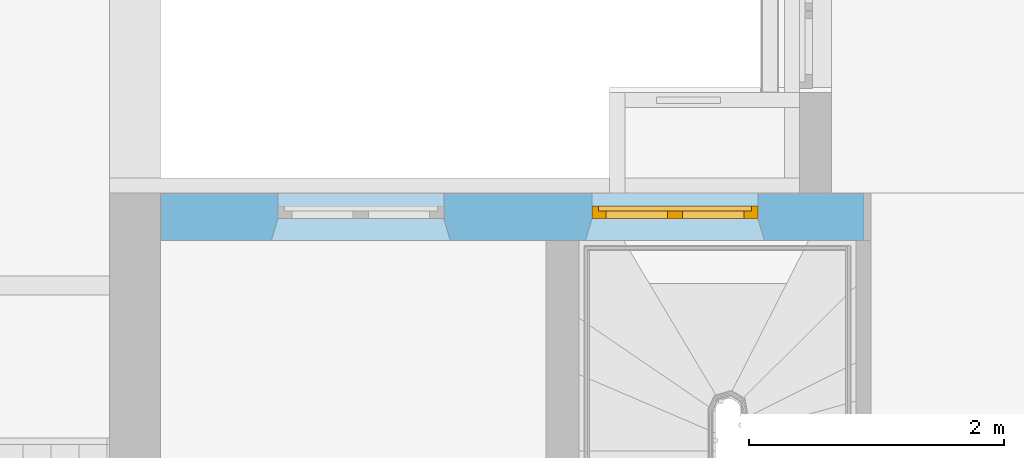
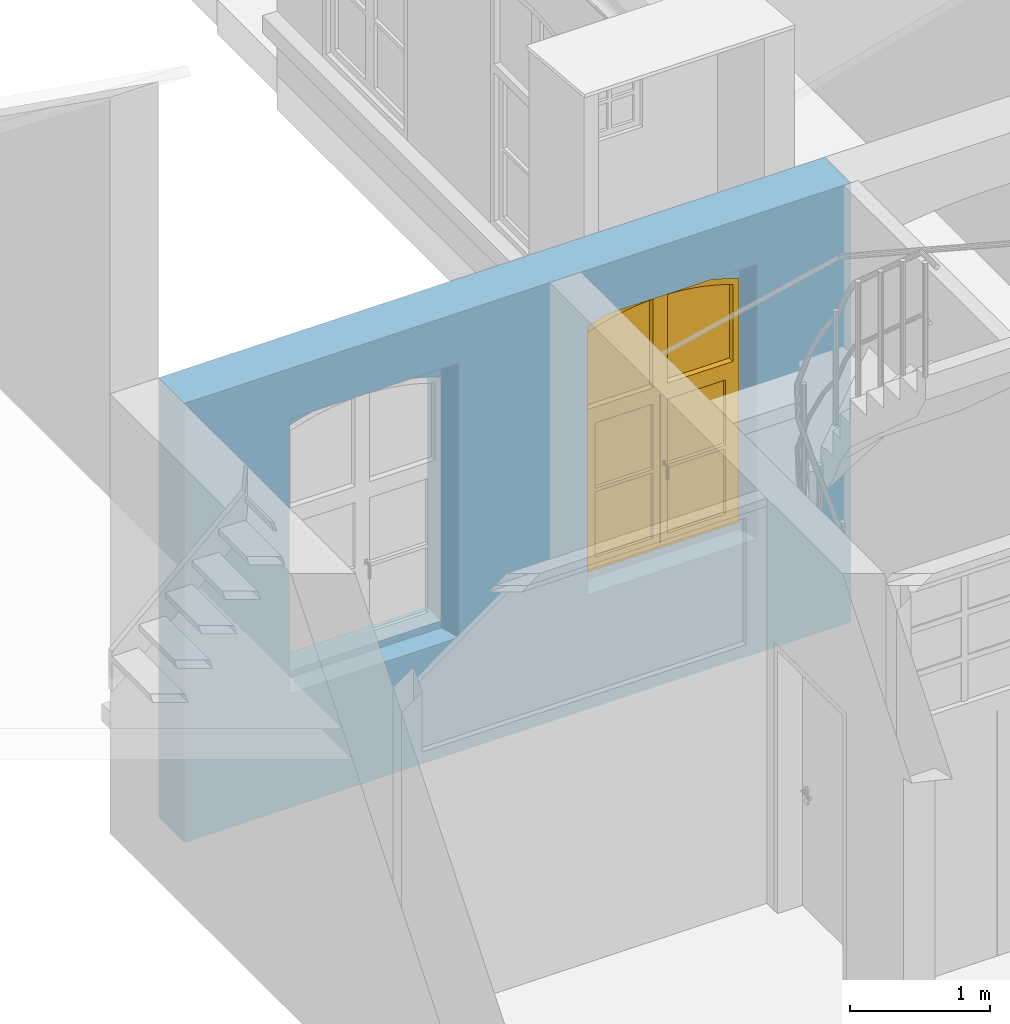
"""IFC4 building model written with IfcOpenShell, lengths in metres."""

from ifc_helpers import new_model, entity, si_unit, converted_unit, derived_unit, frame, frame_2d, origin, origin_with_axes, place, context, subcontext, project, spatial, polyline, rectangle, outline, extrude, closed_shell, open_shell, surface_model, source, transform, mapped, material, layer, layer_set, layer_usage, element, fill, save


model = new_model("IFC4")

# Units and contexts
model_context = context("Model", 3, precision=1e-05, world=origin())
body_context = subcontext(model_context, "Body", "Model", "MODEL_VIEW")
ifc_project = project(units=[si_unit("LENGTHUNIT", "METRE"), si_unit("AREAUNIT", "SQUARE_METRE"), si_unit("VOLUMEUNIT", "CUBIC_METRE"), si_unit("MASSUNIT", "GRAM", prefix="KILO"), converted_unit("PLANEANGLEUNIT", "DEGREE", entity("IfcPlaneAngleMeasure", 0.0174532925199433), si_unit("PLANEANGLEUNIT", "RADIAN"), dimensions=[0, 0, 0, 0, 0, 0, 0]), derived_unit("THERMALTRANSMITTANCEUNIT", [(si_unit("POWERUNIT", "WATT"), 1), (si_unit("THERMODYNAMICTEMPERATUREUNIT", "KELVIN"), -1), (si_unit("LENGTHUNIT", "METRE"), -2)]), derived_unit("VOLUMETRICFLOWRATEUNIT", [(si_unit("LENGTHUNIT", "METRE"), 3), (converted_unit("TIMEUNIT", "hour", entity("IfcTimeMeasure", 3600.0), si_unit("TIMEUNIT", "SECOND"), dimensions=[0, 0, 1, 0, 0, 0, 0]), -1), (si_unit("LENGTHUNIT", "METRE"), -1)])], contexts=[model_context])

# Building, storeys
building_placement = place(None, origin())
building = spatial("IfcBuilding", under=ifc_project, at=building_placement, Name="Bestandsgebäude A - Sporthalle / Wohnhaus (TB 100-499)   ANPASSEN !!!", CompositionType="ELEMENT")
storey_1_placement = place(building_placement, frame((0.0, 0.0, 3.87)))
storey_1 = spatial("IfcBuildingStorey", under=building, at=storey_1_placement, Name="Geb. A 1. Obergeschoss (TB 250-299)", CompositionType="ELEMENT", Elevation=3.87)
storey_2_placement = place(storey_1_placement, frame((0.0, 0.0, 3.87)))
storey_2 = spatial("IfcBuildingStorey", under=storey_1, at=storey_2_placement, Name="Architektur (TB 250-259)", CompositionType="PARTIAL")

# Wall, openings, window
ifc_material = material(Name="concrete")
ifc_layer = layer(ifc_material, 0.37)
ifc_layer_set = layer_set([ifc_layer])
ifc_layer_usage = layer_usage(ifc_layer_set, "AXIS2", "POSITIVE", 0.0)
wall_placement = place(storey_2_placement, frame((-2.99, 9.25, -4.27), z_axis=(0.0, 0.0, 1.0), x_axis=(-1.0, 0.0, 0.0)))
wall = element("IfcWall", 1, at=wall_placement, inside=storey_2, material=ifc_layer_usage, Name="reinforced - bearing", PredefinedType="USERDEFINED", context=body_context, shape_type="SweptSolid", body=[
    extrude(rectangle(XDim=5.51, YDim=0.37, at=frame_2d((2.755, 0.185), x_axis=(1.0, 0.0))), origin_with_axes(), (0.0, 0.0, 1.0), 3.84),
])
opening_1_placement = place(wall_placement, frame((0.82707106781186, 0.0, 1.06), z_axis=(0.0, 1.0, 0.0), x_axis=(0.0, 0.0, 1.0)))
opening_1 = element("IfcOpeningElement", 2, at=opening_1_placement, cuts=wall, Name="Window opening", PredefinedType="OPENING", context=body_context, shape_type="SweptSolid", body=[
    extrude(outline(polyline([(2.13, 1.3), (2.14531656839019, 1.25842115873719), (2.15961661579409, 1.21648184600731), (2.1728916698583, 1.17420690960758), (2.18513386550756, 1.1316213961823), (2.19633594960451, 1.08875053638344), (2.20649128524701, 1.04561972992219), (2.21559385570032, 1.00225453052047), (2.22363826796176, 0.958680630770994), (2.23061975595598, 0.914923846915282), (2.23653418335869, 0.871010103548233), (2.24137804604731, 0.8269654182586), (2.24514847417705, 0.782815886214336), (2.24784323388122, 0.738587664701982), (2.24946072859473, 0.694306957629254), (2.25, 0.65), (2.24946072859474, 0.605693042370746), (2.24784323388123, 0.561412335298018), (2.24514847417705, 0.517184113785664), (2.24137804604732, 0.473034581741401), (2.2365341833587, 0.428989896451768), (2.23061975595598, 0.385076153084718), (2.22363826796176, 0.341319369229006), (2.21559385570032, 0.297745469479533), (2.20649128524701, 0.254380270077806), (2.1963359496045, 0.211249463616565), (2.18513386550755, 0.168378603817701), (2.1728916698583, 0.125793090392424), (2.15961661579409, 0.0835181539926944), (2.14531656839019, 0.0415788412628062), (2.13, 0.0), (0.0, 0.0), (0.0, 1.3), (2.13, 1.3)])), origin_with_axes(), (0.0, 0.0, 1.0), 0.37),
])
opening_2_placement = place(wall_placement, frame((2.17814473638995, 0.37, 1.0), z_axis=(0.0, 0.0, 1.0), x_axis=(-1.0, 0.0, 0.0)))
element("IfcOpeningElement", 3, at=opening_2_placement, cuts=wall, Name="Wall Niche", ObjectType="Opening", context=body_context, shape_type="SweptSolid", body=[
    extrude(outline(polyline([(0.0, 0.0), (1.40142755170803, 0.0), (1.35107366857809, 0.17), (0.0510736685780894, 0.17), (0.0, 0.0)])), origin_with_axes(), (0.0, 0.0, 1.0), 2.4),
])
opening_3_placement = place(wall_placement, frame((4.64107366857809, 0.37, 1.0), z_axis=(0.0, 0.0, 1.0), x_axis=(-1.0, 0.0, 0.0)))
element("IfcOpeningElement", 4, at=opening_3_placement, cuts=wall, Name="Wall Niche", ObjectType="Opening", context=body_context, shape_type="SweptSolid", body=[
    extrude(outline(polyline([(0.0, 0.0), (1.40142755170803, 0.0), (1.35107366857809, 0.17), (0.0510736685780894, 0.17), (0.0, 0.0)])), origin_with_axes(), (0.0, 0.0, 1.0), 2.4),
])
opening_4_placement = place(wall_placement, frame((3.29, 0.0, 1.06), z_axis=(0.0, 1.0, 0.0), x_axis=(0.0, 0.0, 1.0)))
element("IfcOpeningElement", 5, at=opening_4_placement, cuts=wall, Name="Window opening", PredefinedType="OPENING", context=body_context, shape_type="SweptSolid", body=[
    extrude(outline(polyline([(2.13, 1.3), (2.14531656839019, 1.25842115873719), (2.15961661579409, 1.21648184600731), (2.1728916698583, 1.17420690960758), (2.18513386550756, 1.1316213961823), (2.1963359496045, 1.08875053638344), (2.20649128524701, 1.04561972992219), (2.21559385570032, 1.00225453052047), (2.22363826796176, 0.958680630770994), (2.23061975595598, 0.914923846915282), (2.23653418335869, 0.871010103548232), (2.24137804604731, 0.8269654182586), (2.24514847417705, 0.782815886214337), (2.24784323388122, 0.738587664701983), (2.24946072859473, 0.694306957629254), (2.25, 0.65), (2.24946072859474, 0.605693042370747), (2.24784323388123, 0.561412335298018), (2.24514847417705, 0.517184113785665), (2.24137804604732, 0.473034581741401), (2.2365341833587, 0.428989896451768), (2.23061975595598, 0.385076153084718), (2.22363826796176, 0.341319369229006), (2.21559385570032, 0.297745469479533), (2.20649128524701, 0.254380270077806), (2.1963359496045, 0.211249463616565), (2.18513386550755, 0.1683786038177), (2.1728916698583, 0.125793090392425), (2.15961661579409, 0.0835181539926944), (2.14531656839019, 0.0415788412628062), (2.13, 0.0), (0.0, 0.0), (0.0, 1.3), (2.13, 1.3)])), origin_with_axes(), (0.0, 0.0, 1.0), 0.37),
])
shared_shape = source(origin_with_axes(), body_context, "Body", "SurfaceModel", [
    surface_model("IfcShellBasedSurfaceModel", [(1.25842115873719, 0.0, 2.14531656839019), (1.3, 0.0, 2.13), (1.3, 0.0, 0.0), (0.0, 0.0, 0.0), (0.0, 0.0, 2.13), (0.0415788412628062, 0.0, 2.14531656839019), (0.0835181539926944, 0.0, 2.15961661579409), (0.125793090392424, 0.0, 2.1728916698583), (0.1683786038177, 0.0, 2.18513386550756), (0.211249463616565, 0.0, 2.1963359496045), (0.254380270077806, 0.0, 2.20649128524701), (0.297745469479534, 0.0, 2.21559385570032), (0.341319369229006, 0.0, 2.22363826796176), (0.385076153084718, 0.0, 2.23061975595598), (0.428989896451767, 0.0, 2.23653418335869), (0.473034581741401, 0.0, 2.24137804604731), (0.517184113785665, 0.0, 2.24514847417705), (0.561412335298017, 0.0, 2.24784323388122), (0.605693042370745, 0.0, 2.24946072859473), (0.65, 0.0, 2.25), (0.694306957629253, 0.0, 2.24946072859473), (0.738587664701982, 0.0, 2.24784323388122), (0.782815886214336, 0.0, 2.24514847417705), (0.8269654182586, 0.0, 2.24137804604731), (0.871010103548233, 0.0, 2.23653418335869), (0.914923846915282, 0.0, 2.23061975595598), (0.958680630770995, 0.0, 2.22363826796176), (1.00225453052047, 0.0, 2.21559385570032), (1.04561972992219, 0.0, 2.20649128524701), (1.08875053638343, 0.0, 2.1963359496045), (1.1316213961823, 0.0, 2.18513386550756), (1.17420690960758, 0.0, 2.1728916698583), (1.21648184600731, 0.0, 2.15961661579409), (1.25, 0.0, 2.0951341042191), (1.24170887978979, 0.0, 2.09818833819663), (1.20092156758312, 0.0, 2.1120955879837), (1.15980785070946, 0.0, 2.12500599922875), (1.118392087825, 0.0, 2.13691192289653), (1.07669881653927, 0.0, 2.14780630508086), (1.03475273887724, 0.0, 2.15768269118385), (0.992578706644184, 0.0, 2.16653522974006), (0.950201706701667, 0.0, 2.17435867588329), (0.907646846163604, 0.0, 2.18114839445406), (0.864939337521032, 0.0, 2.18690036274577), (0.82210448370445, 0.0, 2.19161117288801), (0.779167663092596, 0.0, 2.19527803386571), (0.736154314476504, 0.0, 2.19789877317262), (0.693089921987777, 0.0, 2.19947183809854), (0.65, 0.0, 2.19999629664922), (0.606910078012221, 0.0, 2.19947183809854), (0.563845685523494, 0.0, 2.19789877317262), (0.520832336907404, 0.0, 2.19527803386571), (0.477895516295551, 0.0, 2.19161117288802), (0.435060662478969, 0.0, 2.18690036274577), (0.392353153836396, 0.0, 2.18114839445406), (0.349798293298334, 0.0, 2.17435867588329), (0.307421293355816, 0.0, 2.16653522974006), (0.265247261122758, 0.0, 2.15768269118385), (0.223301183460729, 0.0, 2.14780630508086), (0.181607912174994, 0.0, 2.13691192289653), (0.140192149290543, 0.0, 2.12500599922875), (0.0990784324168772, 0.0, 2.1120955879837), (0.0582911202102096, 0.0, 2.09818833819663), (0.05, 0.0, 2.0951341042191), (0.05, 0.0, 0.05), (1.25, 0.0, 0.05), (1.3, 0.1, 2.13), (1.25842115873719, 0.1, 2.14531656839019), (1.21648184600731, 0.1, 2.15961661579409), (1.17420690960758, 0.1, 2.1728916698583), (1.1316213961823, 0.1, 2.18513386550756), (1.08875053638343, 0.1, 2.1963359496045), (1.04561972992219, 0.1, 2.20649128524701), (1.00225453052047, 0.1, 2.21559385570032), (0.958680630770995, 0.1, 2.22363826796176), (0.914923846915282, 0.1, 2.23061975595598), (0.871010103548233, 0.1, 2.23653418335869), (0.8269654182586, 0.1, 2.24137804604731), (0.782815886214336, 0.1, 2.24514847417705), (0.738587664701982, 0.1, 2.24784323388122), (0.694306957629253, 0.1, 2.24946072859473), (0.65, 0.1, 2.25), (0.605693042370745, 0.1, 2.24946072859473), (0.561412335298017, 0.1, 2.24784323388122), (0.517184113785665, 0.1, 2.24514847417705), (0.473034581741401, 0.1, 2.24137804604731), (0.428989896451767, 0.1, 2.23653418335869), (0.385076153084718, 0.1, 2.23061975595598), (0.341319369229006, 0.1, 2.22363826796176), (0.297745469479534, 0.1, 2.21559385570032), (0.254380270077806, 0.1, 2.20649128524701), (0.211249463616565, 0.1, 2.1963359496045), (0.1683786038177, 0.1, 2.18513386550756), (0.125793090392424, 0.1, 2.1728916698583), (0.0835181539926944, 0.1, 2.15961661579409), (0.0415788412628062, 0.1, 2.14531656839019), (0.0, 0.1, 2.13), (0.0, 0.1, 0.0), (1.3, 0.1, 0.0), (1.24170887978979, 0.1, 2.09818833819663), (1.25, 0.1, 2.0951341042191), (1.25, 0.1, 0.05), (0.05, 0.1, 0.05), (0.05, 0.1, 2.0951341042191), (0.0582911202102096, 0.1, 2.09818833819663), (0.0990784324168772, 0.1, 2.1120955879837), (0.140192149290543, 0.1, 2.12500599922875), (0.181607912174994, 0.1, 2.13691192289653), (0.223301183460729, 0.1, 2.14780630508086), (0.265247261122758, 0.1, 2.15768269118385), (0.307421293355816, 0.1, 2.16653522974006), (0.349798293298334, 0.1, 2.17435867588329), (0.392353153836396, 0.1, 2.18114839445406), (0.435060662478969, 0.1, 2.18690036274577), (0.477895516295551, 0.1, 2.19161117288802), (0.520832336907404, 0.1, 2.19527803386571), (0.563845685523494, 0.1, 2.19789877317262), (0.606910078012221, 0.1, 2.19947183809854), (0.65, 0.1, 2.19999629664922), (0.693089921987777, 0.1, 2.19947183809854), (0.736154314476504, 0.1, 2.19789877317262), (0.779167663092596, 0.1, 2.19527803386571), (0.82210448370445, 0.1, 2.19161117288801), (0.864939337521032, 0.1, 2.18690036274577), (0.907646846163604, 0.1, 2.18114839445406), (0.950201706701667, 0.1, 2.17435867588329), (0.992578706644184, 0.1, 2.16653522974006), (1.03475273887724, 0.1, 2.15768269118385), (1.07669881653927, 0.1, 2.14780630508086), (1.118392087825, 0.1, 2.13691192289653), (1.15980785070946, 0.1, 2.12500599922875), (1.20092156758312, 0.1, 2.1120955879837)], [closed_shell([[[0, 1, 2, 3, 4, 5, 6, 7, 8, 9, 10, 11, 12, 13, 14, 15, 16, 17, 18, 19, 20, 21, 22, 23, 24, 25, 26, 27, 28, 29, 30, 31, 32], [33, 34, 35, 36, 37, 38, 39, 40, 41, 42, 43, 44, 45, 46, 47, 48, 49, 50, 51, 52, 53, 54, 55, 56, 57, 58, 59, 60, 61, 62, 63, 64, 65]], [[66, 67, 68, 69, 70, 71, 72, 73, 74, 75, 76, 77, 78, 79, 80, 81, 82, 83, 84, 85, 86, 87, 88, 89, 90, 91, 92, 93, 94, 95, 96, 97, 98], [99, 100, 101, 102, 103, 104, 105, 106, 107, 108, 109, 110, 111, 112, 113, 114, 115, 116, 117, 118, 119, 120, 121, 122, 123, 124, 125, 126, 127, 128, 129, 130, 131]], [[1, 0, 67, 66]], [[2, 1, 66, 98]], [[3, 2, 98, 97]], [[4, 3, 97, 96]], [[5, 4, 96, 95]], [[6, 5, 95, 94]], [[7, 6, 94, 93]], [[8, 7, 93, 92]], [[9, 8, 92, 91]], [[10, 9, 91, 90]], [[11, 10, 90, 89]], [[12, 11, 89, 88]], [[13, 12, 88, 87]], [[14, 13, 87, 86]], [[15, 14, 86, 85]], [[16, 15, 85, 84]], [[17, 16, 84, 83]], [[18, 17, 83, 82]], [[19, 18, 82, 81]], [[20, 19, 81, 80]], [[21, 20, 80, 79]], [[22, 21, 79, 78]], [[23, 22, 78, 77]], [[24, 23, 77, 76]], [[25, 24, 76, 75]], [[26, 25, 75, 74]], [[27, 26, 74, 73]], [[28, 27, 73, 72]], [[29, 28, 72, 71]], [[30, 29, 71, 70]], [[31, 30, 70, 69]], [[32, 31, 69, 68]], [[0, 32, 68, 67]], [[33, 100, 99, 34]], [[65, 101, 100, 33]], [[64, 102, 101, 65]], [[63, 103, 102, 64]], [[62, 104, 103, 63]], [[61, 105, 104, 62]], [[60, 106, 105, 61]], [[59, 107, 106, 60]], [[58, 108, 107, 59]], [[57, 109, 108, 58]], [[56, 110, 109, 57]], [[55, 111, 110, 56]], [[54, 112, 111, 55]], [[53, 113, 112, 54]], [[52, 114, 113, 53]], [[51, 115, 114, 52]], [[50, 116, 115, 51]], [[49, 117, 116, 50]], [[48, 118, 117, 49]], [[47, 119, 118, 48]], [[46, 120, 119, 47]], [[45, 121, 120, 46]], [[44, 122, 121, 45]], [[43, 123, 122, 44]], [[42, 124, 123, 43]], [[41, 125, 124, 42]], [[40, 126, 125, 41]], [[39, 127, 126, 40]], [[38, 128, 127, 39]], [[37, 129, 128, 38]], [[36, 130, 129, 37]], [[35, 131, 130, 36]], [[34, 99, 131, 35]]], orient=[[False, False], [False, False], [False], [False], [False], [False], [False], [False], [False], [False], [False], [False], [False], [False], [False], [False], [False], [False], [False], [False], [False], [False], [False], [False], [False], [False], [False], [False], [False], [False], [False], [False], [False], [False], [False], [False], [False], [False], [False], [False], [False], [False], [False], [False], [False], [False], [False], [False], [False], [False], [False], [False], [False], [False], [False], [False], [False], [False], [False], [False], [False], [False], [False], [False], [False], [False], [False], [False]])]),
    surface_model("IfcShellBasedSurfaceModel", [(1.25, 0.0, 1.4226446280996), (1.25, 0.0, 1.3426446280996), (0.05, 0.0, 1.3426446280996), (0.05, 0.0, 1.4226446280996), (1.25, 0.1, 1.3426446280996), (1.25, 0.1, 1.4226446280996), (0.05, 0.1, 1.4226446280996), (0.05, 0.1, 1.3426446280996)], [closed_shell([[[0, 1, 2, 3]], [[4, 5, 6, 7]], [[1, 0, 5, 4]], [[2, 1, 4, 7]], [[3, 2, 7, 6]], [[0, 3, 6, 5]]], orient=[[False], [False], [False], [False], [False], [False]])]),
    surface_model("IfcShellBasedSurfaceModel", [(0.71, 0.0, 2.19885414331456), (0.71, 0.0, 1.4226446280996), (0.59, 0.0, 1.4226446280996), (0.59, 0.0, 2.19885414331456), (0.606910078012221, 0.0, 2.19947183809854), (0.65, 0.0, 2.19999629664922), (0.693089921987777, 0.0, 2.19947183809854), (0.71, 0.1, 1.4226446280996), (0.71, 0.1, 2.19885414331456), (0.693089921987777, 0.1, 2.19947183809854), (0.65, 0.1, 2.19999629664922), (0.606910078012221, 0.1, 2.19947183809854), (0.59, 0.1, 2.19885414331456), (0.59, 0.1, 1.4226446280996)], [closed_shell([[[0, 1, 2, 3, 4, 5, 6]], [[7, 8, 9, 10, 11, 12, 13]], [[1, 0, 8, 7]], [[2, 1, 7, 13]], [[3, 2, 13, 12]], [[4, 3, 12, 11]], [[5, 4, 11, 10]], [[6, 5, 10, 9]], [[0, 6, 9, 8]]], orient=[[False], [False], [False], [False], [False], [False], [False], [False], [False]])]),
    surface_model("IfcShellBasedSurfaceModel", [(0.6505, 0.0, 0.05), (0.6505, 0.0, 1.3426446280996), (1.25, 0.0, 1.3426446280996), (1.25, 0.0, 0.05), (0.7105, 0.0, 1.2826446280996), (0.7105, 0.0, 0.11), (1.19, 0.0, 0.11), (1.19, 0.0, 1.2826446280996), (0.6505, 0.06, 1.3426446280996), (0.6505, 0.06, 0.05), (1.25, 0.06, 0.05), (1.25, 0.06, 1.3426446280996), (0.7105, 0.06, 0.11), (0.7105, 0.06, 1.2826446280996), (1.19, 0.06, 1.2826446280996), (1.19, 0.06, 0.11)], [closed_shell([[[0, 1, 2, 3], [4, 5, 6, 7]], [[8, 9, 10, 11], [12, 13, 14, 15]], [[1, 0, 9, 8]], [[2, 1, 8, 11]], [[3, 2, 11, 10]], [[0, 3, 10, 9]], [[4, 13, 12, 5]], [[7, 14, 13, 4]], [[6, 15, 14, 7]], [[5, 12, 15, 6]]], orient=[[False, False], [False, False], [False], [False], [False], [False], [False], [False], [False], [False]])]),
    surface_model("IfcShellBasedSurfaceModel", [(0.693, 0.0, 0.755), (0.668, 0.0, 0.755), (0.668, 0.0, 0.715), (0.693, 0.0, 0.715), (0.693, -0.01, 0.715), (0.668, -0.01, 0.715), (0.668, -0.01, 0.755), (0.693, -0.01, 0.755)], [closed_shell([[[0, 1, 2, 3]], [[4, 5, 6, 7]], [[3, 4, 7, 0]], [[2, 5, 4, 3]], [[1, 6, 5, 2]], [[0, 7, 6, 1]]], orient=[[False], [False], [False], [False], [False], [False]])]),
    surface_model("IfcShellBasedSurfaceModel", [(0.6705, -0.01, 0.735), (0.671839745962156, -0.01, 0.73), (0.6755, -0.01, 0.726339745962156), (0.6805, -0.01, 0.725), (0.6855, -0.01, 0.726339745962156), (0.689160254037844, -0.01, 0.73), (0.6905, -0.01, 0.735), (0.689160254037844, -0.01, 0.74), (0.6855, -0.01, 0.743660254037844), (0.6805, -0.01, 0.745), (0.6755, -0.01, 0.743660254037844), (0.671839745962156, -0.01, 0.74), (0.671839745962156, -0.055, 0.74), (0.6705, -0.05, 0.735), (0.6755, -0.0586602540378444, 0.743660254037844), (0.6805, -0.06, 0.745), (0.6855, -0.0586602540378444, 0.743660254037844), (0.689160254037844, -0.055, 0.74), (0.6905, -0.05, 0.735), (0.689160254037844, -0.045, 0.73), (0.6855, -0.0413397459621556, 0.726339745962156), (0.6805, -0.04, 0.725), (0.6755, -0.0413397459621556, 0.726339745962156), (0.671839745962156, -0.045, 0.73), (0.6705, -0.05, 0.62), (0.671839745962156, -0.055, 0.62), (0.6755, -0.0586602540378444, 0.62), (0.6805, -0.06, 0.62), (0.6855, -0.0586602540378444, 0.62), (0.689160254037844, -0.055, 0.62), (0.6905, -0.05, 0.62), (0.689160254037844, -0.045, 0.62), (0.6855, -0.0413397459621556, 0.62), (0.6805, -0.04, 0.62), (0.6755, -0.0413397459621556, 0.62), (0.671839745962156, -0.045, 0.62)], [closed_shell([[[0, 1, 2, 3, 4, 5, 6, 7, 8, 9, 10, 11]], [[0, 11, 12, 13]], [[11, 10, 14, 12]], [[10, 9, 15, 14]], [[9, 8, 16, 15]], [[8, 7, 17, 16]], [[7, 6, 18, 17]], [[6, 5, 19, 18]], [[5, 4, 20, 19]], [[4, 3, 21, 20]], [[3, 2, 22, 21]], [[2, 1, 23, 22]], [[1, 0, 13, 23]], [[24, 25, 26, 27, 28, 29, 30, 31, 32, 33, 34, 35]], [[13, 12, 25, 24]], [[12, 14, 26, 25]], [[14, 15, 27, 26]], [[15, 16, 28, 27]], [[16, 17, 29, 28]], [[17, 18, 30, 29]], [[18, 19, 31, 30]], [[19, 20, 32, 31]], [[20, 21, 33, 32]], [[21, 22, 34, 33]], [[22, 23, 35, 34]], [[23, 13, 24, 35]]], orient=[[False], [False], [False], [False], [False], [False], [False], [False], [False], [False], [False], [False], [False], [False], [False], [False], [False], [False], [False], [False], [False], [False], [False], [False], [False], [False]])]),
    surface_model("IfcShellBasedSurfaceModel", [(0.6495, 0.0, 1.3426446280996), (0.6495, 0.0, 0.05), (0.05, 0.0, 0.05), (0.05, 0.0, 1.3426446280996), (0.5895, 0.0, 0.11), (0.5895, 0.0, 1.2826446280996), (0.11, 0.0, 1.2826446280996), (0.11, 0.0, 0.11), (0.6495, 0.06, 0.05), (0.6495, 0.06, 1.3426446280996), (0.05, 0.06, 1.3426446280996), (0.05, 0.06, 0.05), (0.5895, 0.06, 1.2826446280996), (0.5895, 0.06, 0.11), (0.11, 0.06, 0.11), (0.11, 0.06, 1.2826446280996)], [closed_shell([[[0, 1, 2, 3], [4, 5, 6, 7]], [[8, 9, 10, 11], [12, 13, 14, 15]], [[1, 0, 9, 8]], [[2, 1, 8, 11]], [[3, 2, 11, 10]], [[0, 3, 10, 9]], [[4, 13, 12, 5]], [[7, 14, 13, 4]], [[6, 15, 14, 7]], [[5, 12, 15, 6]]], orient=[[False, False], [False, False], [False], [False], [False], [False], [False], [False], [False], [False]])]),
    surface_model("IfcShellBasedSurfaceModel", [(0.5895, 0.0, 0.7113223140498), (0.5895, 0.0, 0.6813223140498), (0.11, 0.0, 0.6813223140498), (0.11, 0.0, 0.7113223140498), (0.5895, 0.06, 0.6813223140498), (0.5895, 0.06, 0.7113223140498), (0.11, 0.06, 0.7113223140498), (0.11, 0.06, 0.6813223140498)], [closed_shell([[[0, 1, 2, 3]], [[4, 5, 6, 7]], [[1, 0, 5, 4]], [[2, 1, 4, 7]], [[3, 2, 7, 6]], [[0, 3, 6, 5]]], orient=[[False], [False], [False], [False], [False], [False]])]),
    surface_model("IfcShellBasedSurfaceModel", [(1.19, 0.0, 0.7113223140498), (1.19, 0.0, 0.6813223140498), (0.7105, 0.0, 0.6813223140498), (0.7105, 0.0, 0.7113223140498), (1.19, 0.06, 0.6813223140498), (1.19, 0.06, 0.7113223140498), (0.7105, 0.06, 0.7113223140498), (0.7105, 0.06, 0.6813223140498)], [closed_shell([[[0, 1, 2, 3]], [[4, 5, 6, 7]], [[1, 0, 5, 4]], [[2, 1, 4, 7]], [[3, 2, 7, 6]], [[0, 3, 6, 5]]], orient=[[False], [False], [False], [False], [False], [False]])]),
    surface_model("IfcShellBasedSurfaceModel", [(1.24170887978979, 0.05, 2.09818833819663), (1.25, 0.05, 2.0951341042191), (1.25, 0.05, 1.4226446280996), (0.71, 0.05, 1.4226446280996), (0.71, 0.05, 2.19885414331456), (0.736154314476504, 0.05, 2.19789877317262), (0.779167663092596, 0.05, 2.19527803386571), (0.82210448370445, 0.05, 2.19161117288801), (0.864939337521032, 0.05, 2.18690036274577), (0.907646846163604, 0.05, 2.18114839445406), (0.950201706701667, 0.05, 2.17435867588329), (0.992578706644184, 0.05, 2.16653522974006), (1.03475273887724, 0.05, 2.15768269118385), (1.07669881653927, 0.05, 2.14780630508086), (1.118392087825, 0.05, 2.13691192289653), (1.15980785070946, 0.05, 2.12500599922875), (1.20092156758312, 0.05, 2.1120955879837)], [open_shell([[[0, 1, 2, 3, 4, 5, 6, 7, 8, 9, 10, 11, 12, 13, 14, 15, 16]]], orient=[[False]])]),
    surface_model("IfcShellBasedSurfaceModel", [(0.563845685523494, 0.05, 2.19789877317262), (0.59, 0.05, 2.19885414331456), (0.59, 0.05, 1.4226446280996), (0.05, 0.05, 1.4226446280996), (0.05, 0.05, 2.0951341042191), (0.0582911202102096, 0.05, 2.09818833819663), (0.0990784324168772, 0.05, 2.1120955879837), (0.140192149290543, 0.05, 2.12500599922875), (0.181607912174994, 0.05, 2.13691192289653), (0.223301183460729, 0.05, 2.14780630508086), (0.265247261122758, 0.05, 2.15768269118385), (0.307421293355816, 0.05, 2.16653522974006), (0.349798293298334, 0.05, 2.17435867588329), (0.392353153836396, 0.05, 2.18114839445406), (0.435060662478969, 0.05, 2.18690036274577), (0.477895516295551, 0.05, 2.19161117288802), (0.520832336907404, 0.05, 2.19527803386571)], [open_shell([[[0, 1, 2, 3, 4, 5, 6, 7, 8, 9, 10, 11, 12, 13, 14, 15, 16]]], orient=[[False]])]),
    surface_model("IfcShellBasedSurfaceModel", [(0.5895, 0.03, 0.6813223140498), (0.5895, 0.03, 0.11), (0.11, 0.03, 0.11), (0.11, 0.03, 0.6813223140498)], [open_shell([[[0, 1, 2, 3]]], orient=[[False]])]),
    surface_model("IfcShellBasedSurfaceModel", [(0.11, 0.03, 1.2826446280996), (0.5895, 0.03, 1.2826446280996), (0.5895, 0.03, 0.7113223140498), (0.11, 0.03, 0.7113223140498)], [open_shell([[[0, 1, 2, 3]]], orient=[[False]])]),
    surface_model("IfcShellBasedSurfaceModel", [(1.19, 0.03, 0.6813223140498), (1.19, 0.03, 0.11), (0.7105, 0.03, 0.11), (0.7105, 0.03, 0.6813223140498)], [open_shell([[[0, 1, 2, 3]]], orient=[[False]])]),
    surface_model("IfcShellBasedSurfaceModel", [(0.7105, 0.03, 1.2826446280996), (1.19, 0.03, 1.2826446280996), (1.19, 0.03, 0.7113223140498), (0.7105, 0.03, 0.7113223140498)], [open_shell([[[0, 1, 2, 3]]], orient=[[False]])]),
    surface_model("IfcShellBasedSurfaceModel", [(0.11, 0.03, 0.11), (0.5895, 0.03, 0.6963223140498), (0.11, 0.03, 1.2826446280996)], [open_shell([[[0, 1, 2]]], orient=[[False]])]),
])
window_placement = place(opening_1_placement, frame((0.0, 1.3, 0.2), z_axis=(1.0, 0.0, 0.0), x_axis=(0.0, -1.0, 0.0)))
window = element("IfcWindow", 6, at=window_placement, inside=storey_2, Name="Window", OverallHeight=2.25, OverallWidth=1.3, PartitioningType="USERDEFINED", PredefinedType="WINDOW", context=body_context, shape_type="MappedRepresentation", body=[
    mapped(shared_shape, transform((0.0, 0.0, 0.0), x_axis=(1.0, 0.0, 0.0), y_axis=(0.0, 1.0, 0.0), z_axis=(0.0, 0.0, 1.0), scale=1.0)),
])
fill(opening_1, window)

save(model, "model.ifc")
